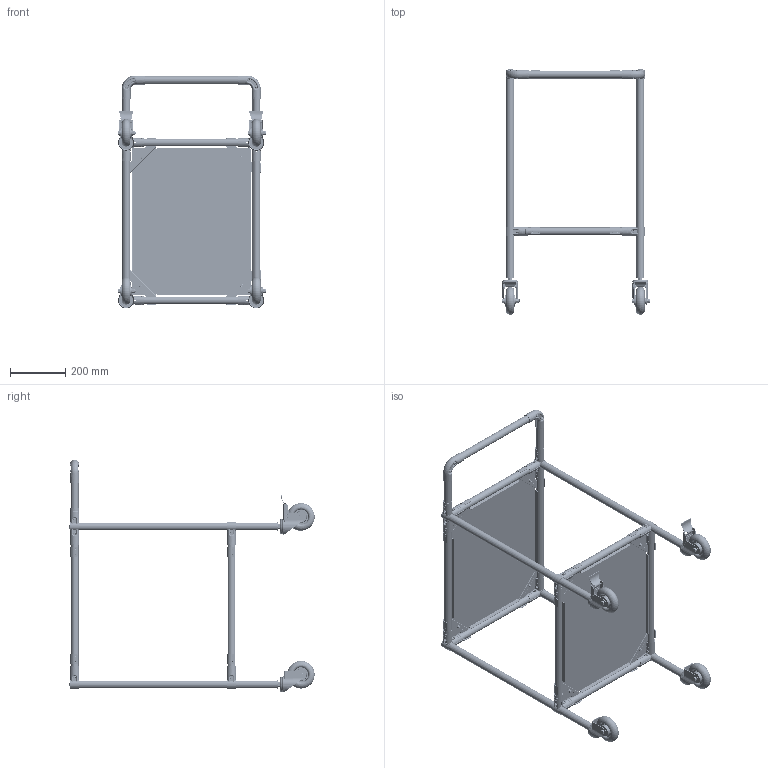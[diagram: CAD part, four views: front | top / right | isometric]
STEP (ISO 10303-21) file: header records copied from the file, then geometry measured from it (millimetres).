
FILE_DESCRIPTION (( 'STEP AP214' ), '1' );
FILE_NAME ('RSI-MST-600x500x900-2.STEP', '2026-01-26T08:26:43', ( '' ), ( '' ), 'SwSTEP 2.0', 'SolidWorks 2022', '' );
FILE_SCHEMA (( 'AUTOMOTIVE_DESIGN' ));
Length unit declared in the file: millimetre
Products named in the file (26): FHJ-405; F-180-1^df-17b; PR-28X3-A_L=150 мм; PR-28X3-A_L=750 мм; F-180-1; FHJ-404; f-110-x.stp; Шайба DIN125_6; D-3; fh-1010b; df-2b_Кронштейн соединительный DF2B; Зеркально отразитьfh-1010b; df-17b_Кронштейн соединительный DF17B; df-3b_Для сборки; F-170^df-17b; Шайба DIN7980_D8 DIN 7980; D-4; D-17^df-17b; Винт полусфера ISO 7380_М6х16; D-2; F-170; Polka RSI-MST-600x500x900-2; RSI-MST-600x500x900-2; Гайка DIN934_M6; PR-28X3-A_L=400 мм; PR-28X3-A_L=500 мм
Assembly tree (96 placements, depth 3):
  RSI-MST-600x500x900-2
    PR-28X3-A_L=500 мм  x4
    df-2b_Кронштейн соединительный DF2B  x6
      D-2
      D-3
      F-180-1
      F-170
    PR-28X3-A_L=750 мм  x4
    df-3b_Для сборки  x2
      D-4
      D-2
      F-180-1
      F-170
    PR-28X3-A_L=400 мм  x5
    PR-28X3-A_L=150 мм  x2
    df-17b_Кронштейн соединительный DF17B  x2
      D-17^df-17b
      F-180-1^df-17b
      F-170^df-17b
    f-110-x.stp  x4
    FHJ-405  x2
    FHJ-404  x2
    fh-1010b  x4
    Зеркально отразитьfh-1010b  x4
    Polka RSI-MST-600x500x900-2  x2
    Винт полусфера ISO 7380_М6х16  x8
    Шайба DIN125_6  x8
    Шайба DIN7980_D8 DIN 7980  x8
    Гайка DIN934_M6  x8
Bounding box: 535 x 887.4 x 842.5 mm (x, y, z)
Volume: 4271241.5 mm3; surface area: 2871891.4 mm2
Topology: 133 solids, 133 shells, 7934 faces, 20274 edges, 12932 vertices
Faces by surface type: cylinder 3264, plane 2192, bspline 1112, cone 658, torus 548, sphere 160
Entity records: 102866 total; most frequent: CARTESIAN_POINT 59504, ORIENTED_EDGE 8696, DIRECTION 7343, EDGE_CURVE 4348, AXIS2_PLACEMENT_3D 2903, VERTEX_POINT 2766, EDGE_LOOP 1874, FACE_OUTER_BOUND 1718
